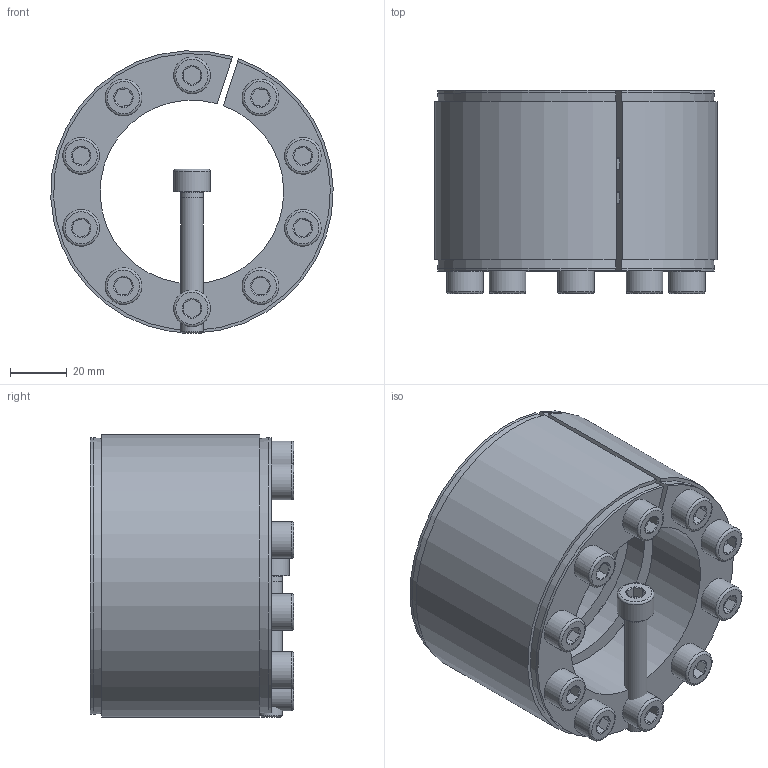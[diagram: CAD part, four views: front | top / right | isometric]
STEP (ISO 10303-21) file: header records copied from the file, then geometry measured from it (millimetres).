
FILE_DESCRIPTION( ( 'Unknown' ), '1' );
FILE_NAME( 'C:/Dokumente und Einstellungen/Sven/Desktop/homepage/cad - homepage/KBS11/KBS 11 - 65 x 100.stp', 'Unknown', ( 'Unknown' ), ( 'Unknown' ), 'XStep 1.0', 'Unknown', ' ' );
FILE_SCHEMA( ( 'automotive_design' ) );
Length unit declared in the file: millimetre
Products named in the file (3): Assem1; KBS 11 - 65 x 100; ISO EN DIN 4762 M8x50
Bounding box: 99.94 x 72 x 99.92 mm (x, y, z)
Volume: 496608.3 mm3; surface area: 160214.2 mm2
Topology: 13 solids, 13 shells, 375 faces, 801 edges, 496 vertices
Faces by surface type: plane 152, cylinder 116, cone 85, torus 22
Full cylindrical faces by diameter (mm): 7 x11, 8 x82, 13 x11
Entity records: 2738 total; most frequent: CARTESIAN_POINT 425, DIRECTION 404, ORIENTED_EDGE 298, AXIS2_PLACEMENT_3D 182, EDGE_LOOP 176, EDGE_CURVE 149, VERTEX_POINT 119, FACE_OUTER_BOUND 111
